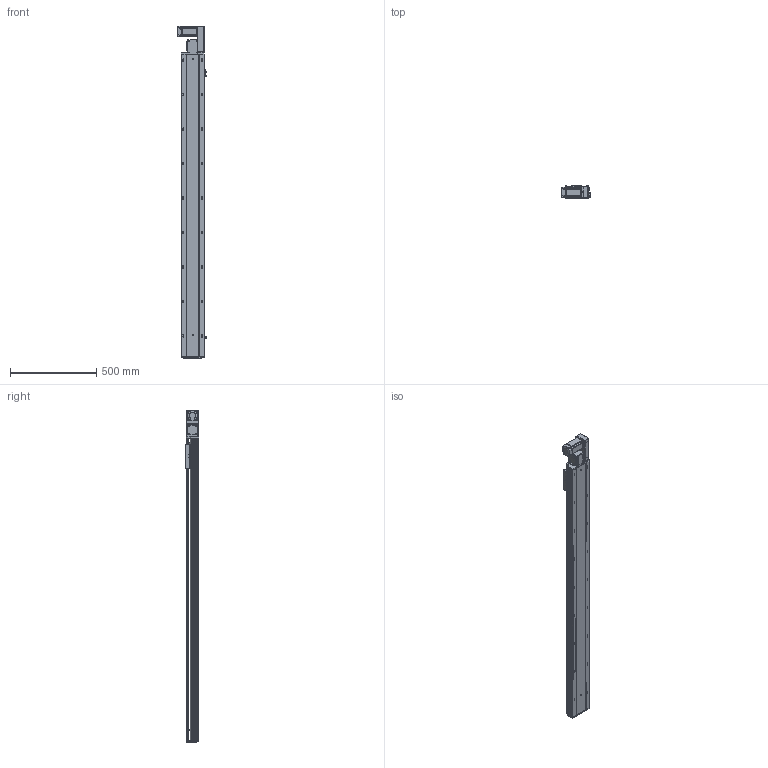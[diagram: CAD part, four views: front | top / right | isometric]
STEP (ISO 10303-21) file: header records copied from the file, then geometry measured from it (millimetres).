
FILE_DESCRIPTION (( 'STEP AP203' ), '1' );
FILE_NAME ('RY140-T-300-RK.SLDASM_1500.step', '2021-03-01T06:46:32', ( '盈信电脑' ), ( '东莞市道滘镇水果街19号' ), 'SwSTEP 2.0', 'SolidWorks 2012', '' );
FILE_SCHEMA (( 'CONFIG_CONTROL_DESIGN' ));
Products named in the file (17): RY140-T-300-RK.SLDASM_1500; RY140-T萇儂假蚾啣; 15; RY120-T主同步轮轴承压盖; RY120-T蹟翐M4; RY140-T翋肮謫裔啣; 滅袉蝶18-10; RY140-T萇儂欶; RY120-T肮祭湍揤踡輸1; RY120-T肮祭湍揤踡輸2; RY140-T翋肮祭謫盓傅釱; RY120外置感应片(140共用）; RY140綴裔啣; RY140-T-300-DR倰第奻裔啣_1500; 覜茼ん672; RY140-T-300-DR倰第菁釱_1500; RY140肮祭謫臏賑輸
Assembly tree (22 placements, depth 2):
  RY140-T-300-RK.SLDASM_1500
    RY140-T-300-DR倰第菁釱_1500
    RY140肮祭謫臏賑輸
    RY140-T-300-DR倰第奻裔啣_1500
    RY140綴裔啣
    覜茼ん672  x3
    RY120外置感应片(140共用）
    RY120-T肮祭湍揤踡輸2
    RY120-T肮祭湍揤踡輸1
    RY140-T翋肮祭謫盓傅釱
    滅袉蝶18-10  x2
    RY140-T翋肮謫裔啣
    RY140-T萇儂欶
    RY140-T萇儂假蚾啣
    RY120-T蹟翐M4  x4
    15
    RY120-T主同步轮轴承压盖
Bounding box: 170.7 x 78 x 1926.5 mm (x, y, z)
Volume: 5193560.3 mm3; surface area: 2012517.7 mm2
Topology: 22 solids, 22 shells, 2767 faces, 7577 edges, 4838 vertices
Faces by surface type: plane 1381, cylinder 1032, cone 254, bspline 100
Entity records: 87254 total; most frequent: CARTESIAN_POINT 21221, ORIENTED_EDGE 13570, DIRECTION 12957, EDGE_CURVE 6785, VERTEX_POINT 4437, AXIS2_PLACEMENT_3D 4326, LINE 4305, VECTOR 4305
